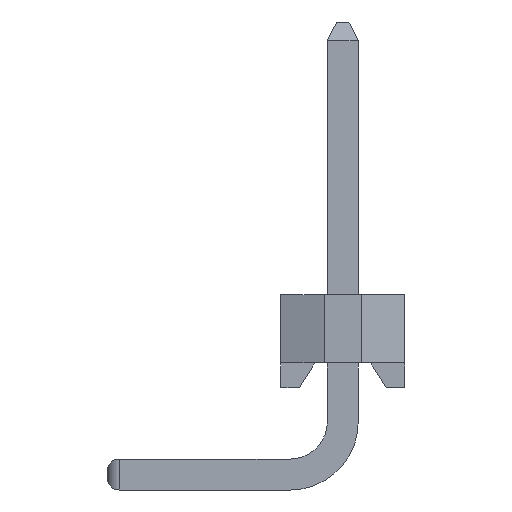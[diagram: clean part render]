
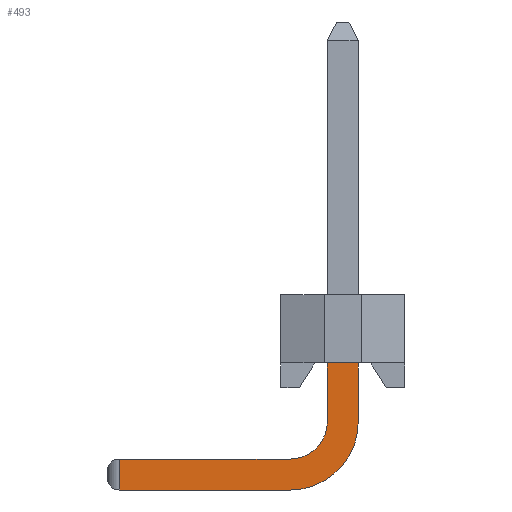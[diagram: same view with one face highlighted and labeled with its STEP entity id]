
A CAD part, left-side view. The second image highlights one B-rep face of the part: STEP entity #493.
In plain terms, the highlighted planar face has unit normal (-1, 0, 0).
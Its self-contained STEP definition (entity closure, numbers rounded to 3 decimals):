
#284=CIRCLE('',#16894,1.1);
#285=CIRCLE('',#16895,0.6);
#493=ADVANCED_FACE('',(#2151),#1397,.T.);
#1397=PLANE('',#16896);
#2151=FACE_OUTER_BOUND('',#3105,.T.);
#3105=EDGE_LOOP('',(#5082,#5083,#5084,#5085,#5086,#5087,#5088,#5089));
#5082=ORIENTED_EDGE('',*,*,#11136,.T.);
#5083=ORIENTED_EDGE('',*,*,#11137,.T.);
#5084=ORIENTED_EDGE('',*,*,#11138,.T.);
#5085=ORIENTED_EDGE('',*,*,#11139,.T.);
#5086=ORIENTED_EDGE('',*,*,#11140,.F.);
#5087=ORIENTED_EDGE('',*,*,#11118,.F.);
#5088=ORIENTED_EDGE('',*,*,#11141,.T.);
#5089=ORIENTED_EDGE('',*,*,#11142,.T.);
#9462=VERTEX_POINT('',#24111);
#9463=VERTEX_POINT('',#24112);
#9474=VERTEX_POINT('',#24148);
#9475=VERTEX_POINT('',#24149);
#9476=VERTEX_POINT('',#24151);
#9477=VERTEX_POINT('',#24153);
#9478=VERTEX_POINT('',#24155);
#9479=VERTEX_POINT('',#24158);
#11118=EDGE_CURVE('',#9462,#9463,#13474,.T.);
#11136=EDGE_CURVE('',#9474,#9475,#13492,.T.);
#11137=EDGE_CURVE('',#9475,#9476,#13493,.T.);
#11138=EDGE_CURVE('',#9476,#9477,#13494,.T.);
#11139=EDGE_CURVE('',#9477,#9478,#284,.T.);
#11140=EDGE_CURVE('',#9463,#9478,#13495,.T.);
#11141=EDGE_CURVE('',#9462,#9479,#13496,.T.);
#11142=EDGE_CURVE('',#9479,#9474,#285,.T.);
#13474=LINE('',#24110,#15630);
#13492=LINE('',#24147,#15648);
#13493=LINE('',#24150,#15649);
#13494=LINE('',#24152,#15650);
#13495=LINE('',#24156,#15651);
#13496=LINE('',#24157,#15652);
#15630=VECTOR('',#18997,1.);
#15648=VECTOR('',#19029,1.);
#15649=VECTOR('',#19030,1.);
#15650=VECTOR('',#19031,1.);
#15651=VECTOR('',#19034,1.);
#15652=VECTOR('',#19035,1.);
#16894=AXIS2_PLACEMENT_3D('',#24154,#19032,#19033);
#16895=AXIS2_PLACEMENT_3D('',#24159,#19036,#19037);
#16896=AXIS2_PLACEMENT_3D('',#24160,#19038,#19039);
#18997=DIRECTION('',(0.,-1.,0.));
#19029=DIRECTION('',(0.,1.,0.));
#19030=DIRECTION('',(0.,0.,-1.));
#19031=DIRECTION('',(0.,-1.,0.));
#19032=DIRECTION('',(-1.,0.,0.));
#19033=DIRECTION('',(0.,0.,1.));
#19034=DIRECTION('',(0.,0.,-1.));
#19035=DIRECTION('',(0.,0.,-1.));
#19036=DIRECTION('',(1.,0.,0.));
#19037=DIRECTION('',(0.,0.,1.));
#19038=DIRECTION('',(-1.,0.,0.));
#19039=DIRECTION('',(0.,0.,1.));
#24110=CARTESIAN_POINT('',(0.75,1.25,0.));
#24111=CARTESIAN_POINT('',(0.75,1.25,0.));
#24112=CARTESIAN_POINT('',(0.75,0.75,0.));
#24147=CARTESIAN_POINT('',(0.75,4.8,-1.55));
#24148=CARTESIAN_POINT('',(0.75,1.85,-1.55));
#24149=CARTESIAN_POINT('',(0.75,4.6,-1.55));
#24150=CARTESIAN_POINT('',(0.75,4.6,0.));
#24151=CARTESIAN_POINT('',(0.75,4.6,-2.05));
#24152=CARTESIAN_POINT('',(0.75,1.25,-2.05));
#24153=CARTESIAN_POINT('',(0.75,1.85,-2.05));
#24154=CARTESIAN_POINT('',(0.75,1.85,-0.95));
#24155=CARTESIAN_POINT('',(0.75,0.75,-0.95));
#24156=CARTESIAN_POINT('',(0.75,0.75,-2.05));
#24157=CARTESIAN_POINT('',(0.75,1.25,-2.05));
#24158=CARTESIAN_POINT('',(0.75,1.25,-0.95));
#24159=CARTESIAN_POINT('',(0.75,1.85,-0.95));
#24160=CARTESIAN_POINT('',(0.75,1.25,0.));
